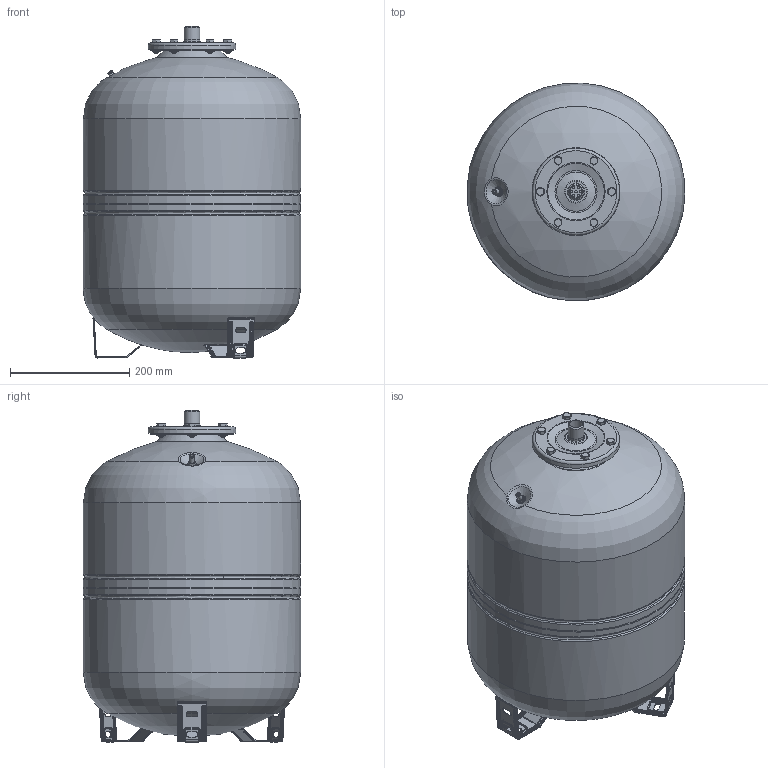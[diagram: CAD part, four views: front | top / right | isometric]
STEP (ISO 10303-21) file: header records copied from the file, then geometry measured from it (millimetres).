
FILE_DESCRIPTION(('STEP AP214'), '1');
FILE_NAME('WRV-50_1', '', ('UNSPECIFIED'), ('UNSPECIFIED'), 'ASCON STEP Converter 1.3', 'ASCON Math Kernel', '');
FILE_SCHEMA(('AUTOMOTIVE_DESIGN { 1 0 10303 214 3 1 1}'));
Length unit declared in the file: millimetre
Assembly tree (1 placements, depth 2):
  (unnamed)
    (unnamed)
Bounding box: 365.06 x 365.06 x 557 mm (x, y, z)
Volume: 45360456 mm3; surface area: 725255.3 mm2
Topology: 1 solids, 1 shells, 822 faces, 1965 edges, 1180 vertices
Faces by surface type: cylinder 347, torus 240, plane 197, cone 33, bspline 3, sphere 2
Full cylindrical faces by diameter (mm): 4 x7, 5.5 x1, 8 x7, 14 x6, 21.2 x1, 26.442 x1, 26.8 x1, 140 x1, 365 x4
Entity records: 34155 total; most frequent: CARTESIAN_POINT 8094, DIRECTION 4516, ORIENTED_EDGE 3762, AXIS2_PLACEMENT_3D 1895, EDGE_CURVE 1881, VERTEX_POINT 1174, CIRCLE 1074, EDGE_LOOP 959
